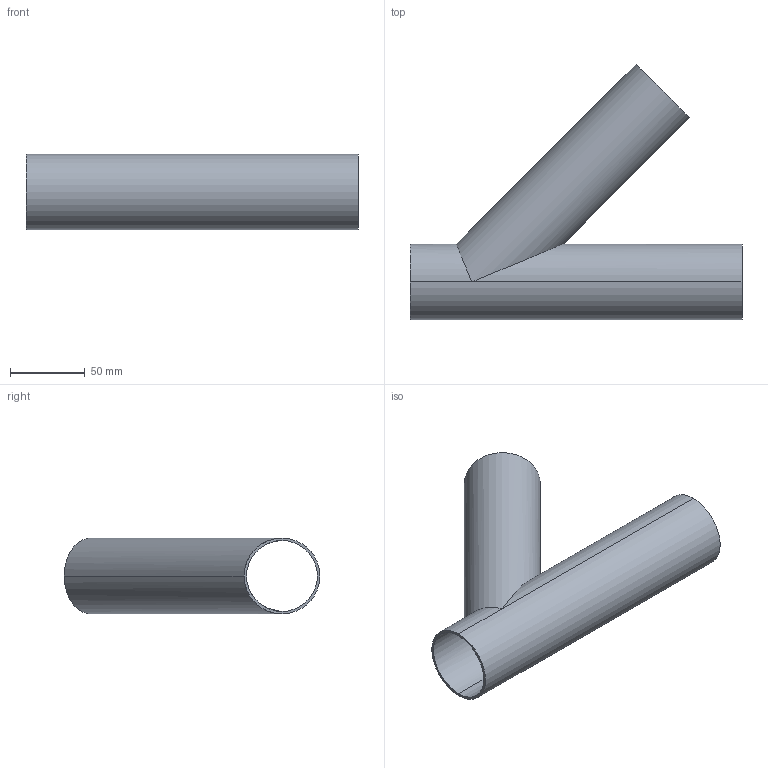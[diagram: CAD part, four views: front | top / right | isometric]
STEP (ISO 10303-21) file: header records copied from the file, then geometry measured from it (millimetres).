
FILE_DESCRIPTION (( 'STEP AP214' ), '1' );
FILE_NAME ('TE28WA6L2.0-...STEP', '2016-05-24T12:43:26', ( 'eran' ), ( '' ), 'SwSTEP 2.0', 'SolidWorks 2016', '' );
FILE_SCHEMA (( 'AUTOMOTIVE_DESIGN' ));
Length unit declared in the file: millimetre
Products named in the file (1): TE28WA6L2.0-..
Bounding box: 222.4 x 171.35 x 50.8 mm (x, y, z)
Volume: 91498.2 mm3; surface area: 111660.9 mm2
Topology: 1 solids, 1 shells, 13 faces, 32 edges, 20 vertices
Faces by surface type: cylinder 10, plane 3
Entity records: 428 total; most frequent: CARTESIAN_POINT 90, ORIENTED_EDGE 64, DIRECTION 64, EDGE_CURVE 32, AXIS2_PLACEMENT_3D 26, VERTEX_POINT 20, EDGE_LOOP 16, FACE_OUTER_BOUND 13
